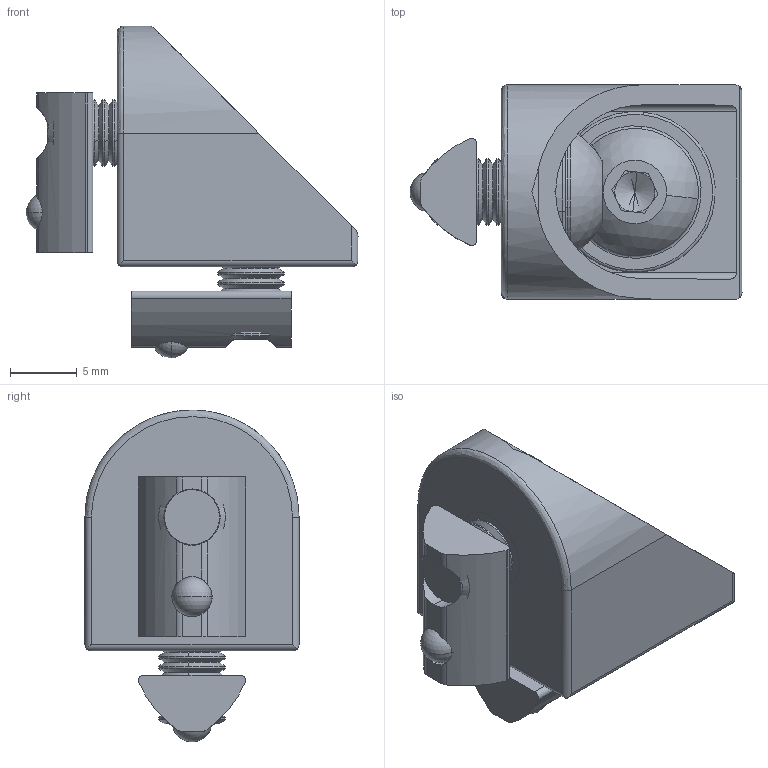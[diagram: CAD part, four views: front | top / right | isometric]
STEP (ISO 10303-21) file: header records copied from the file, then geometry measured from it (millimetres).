
FILE_DESCRIPTION (( 'STEP AP203' ), '1' );
FILE_NAME ('351218_Gelenkwinkel-Satz 5.step', '2022-03-24T10:51:34', ( '' ), ( '' ), 'SwSTEP 2.0', 'SolidWorks 2021', '' );
FILE_SCHEMA (( 'CONFIG_CONTROL_DESIGN' ));
Length unit declared in the file: millimetre
Products named in the file (6): 99900655 Nutenstein 5 M5 einschwenkbar mit Kugel (ohne Steg); Schraube, Linsenkopf mit Flansch M5x10, 10.9, verzinkt; Lagerbuchse; 351218_Gelenkwinkel-Satz 5; 351218 Gelenkwinkel 5; Schraube, Linsenkopf mit Flansch M5x8, 10.9, verzinkt
Assembly tree (6 placements, depth 2):
  351218_Gelenkwinkel-Satz 5
    351218 Gelenkwinkel 5
    Lagerbuchse
    Schraube, Linsenkopf mit Flansch M5x8, 10.9, verzinkt
    Schraube, Linsenkopf mit Flansch M5x10, 10.9, verzinkt
    99900655 Nutenstein 5 M5 einschwenkbar mit Kugel (ohne Steg)  x2
Bounding box: 24.8 x 16 x 24.8 mm (x, y, z)
Volume: 2992.7 mm3; surface area: 3572.5 mm2
Topology: 8 solids, 8 shells, 279 faces, 721 edges, 456 vertices
Faces by surface type: cylinder 109, cone 94, plane 59, torus 8, sphere 8, bspline 1
Entity records: 8570 total; most frequent: CARTESIAN_POINT 1585, DIRECTION 1463, ORIENTED_EDGE 1284, EDGE_CURVE 642, AXIS2_PLACEMENT_3D 598, VERTEX_POINT 406, CIRCLE 335, EDGE_LOOP 270
